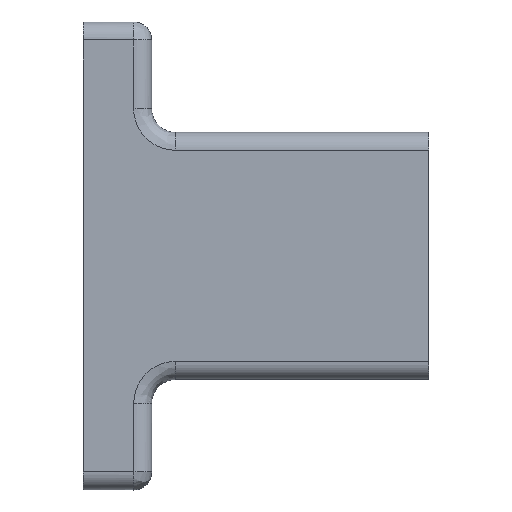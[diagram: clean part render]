
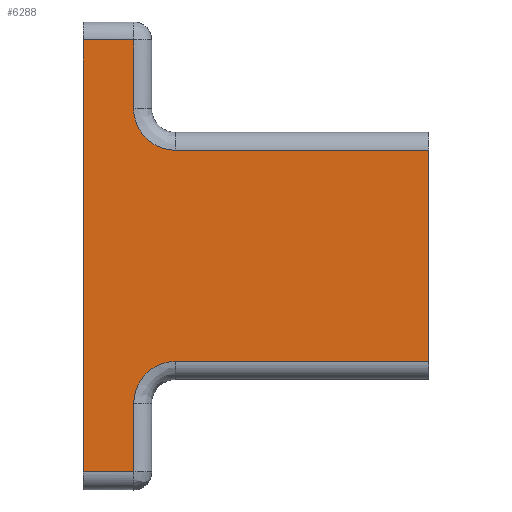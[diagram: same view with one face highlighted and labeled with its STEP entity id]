
A CAD part, top view. The second image highlights one B-rep face of the part: STEP entity #6288.
In plain terms, the highlighted free-form (B-spline) face has degree [1, 1] with [2, 2] control points.
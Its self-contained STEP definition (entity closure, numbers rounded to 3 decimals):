
#1602=CARTESIAN_POINT('',(28.8,9.558,11.));
#1603=VERTEX_POINT('',#1602);
#1622=CARTESIAN_POINT('',(28.8,-8.042,11.));
#1623=VERTEX_POINT('',#1622);
#1624=CARTESIAN_POINT('',(28.8,9.558,11.));
#1625=CARTESIAN_POINT('',(28.8,6.038,11.));
#1626=CARTESIAN_POINT('',(28.8,2.518,11.));
#1627=CARTESIAN_POINT('',(28.8,-1.002,11.));
#1628=CARTESIAN_POINT('',(28.8,-4.522,11.));
#1629=CARTESIAN_POINT('',(28.8,-8.042,11.));
#1630=B_SPLINE_CURVE_WITH_KNOTS('',5,(#1624,#1625,#1626,#1627,#1628,#1629),.UNSPECIFIED.,.F.,.U.,(6,6),(0.,17.6),.UNSPECIFIED.);
#1631=EDGE_CURVE('',#1603,#1623,#1630,.T.);
#3405=CARTESIAN_POINT('',(0.,-17.242,11.));
#3406=VERTEX_POINT('',#3405);
#3425=CARTESIAN_POINT('',(0.,18.758,11.));
#3426=VERTEX_POINT('',#3425);
#3427=CARTESIAN_POINT('',(0.,-17.242,11.));
#3428=CARTESIAN_POINT('',(0.,-10.042,11.));
#3429=CARTESIAN_POINT('',(0.,-2.842,11.));
#3430=CARTESIAN_POINT('',(0.,4.358,11.));
#3431=CARTESIAN_POINT('',(0.,11.558,11.));
#3432=CARTESIAN_POINT('',(0.,18.758,11.));
#3433=B_SPLINE_CURVE_WITH_KNOTS('',5,(#3427,#3428,#3429,#3430,#3431,#3432),.UNSPECIFIED.,.F.,.U.,(6,6),(0.,36.),.UNSPECIFIED.);
#3434=EDGE_CURVE('',#3406,#3426,#3433,.T.);
#4938=CARTESIAN_POINT('',(4.2,18.758,11.));
#4939=VERTEX_POINT('',#4938);
#5356=CARTESIAN_POINT('',(4.2,13.058,11.));
#5357=VERTEX_POINT('',#5356);
#5386=CARTESIAN_POINT('',(4.2,13.058,11.));
#5387=CARTESIAN_POINT('',(4.2,14.198,11.));
#5388=CARTESIAN_POINT('',(4.2,15.338,11.));
#5389=CARTESIAN_POINT('',(4.2,16.478,11.));
#5390=CARTESIAN_POINT('',(4.2,17.618,11.));
#5391=CARTESIAN_POINT('',(4.2,18.758,11.));
#5392=B_SPLINE_CURVE_WITH_KNOTS('',5,(#5386,#5387,#5388,#5389,#5390,#5391),.UNSPECIFIED.,.F.,.U.,(6,6),(0.,5.7),.UNSPECIFIED.);
#5393=EDGE_CURVE('',#5357,#4939,#5392,.T.);
#5410=CARTESIAN_POINT('',(4.2,18.758,11.));
#5411=CARTESIAN_POINT('',(3.36,18.758,11.));
#5412=CARTESIAN_POINT('',(2.52,18.758,11.));
#5413=CARTESIAN_POINT('',(1.68,18.758,11.));
#5414=CARTESIAN_POINT('',(0.84,18.758,11.));
#5415=CARTESIAN_POINT('',(0.,18.758,11.));
#5416=B_SPLINE_CURVE_WITH_KNOTS('',5,(#5410,#5411,#5412,#5413,#5414,#5415),.UNSPECIFIED.,.F.,.U.,(6,6),(0.,4.2),.UNSPECIFIED.);
#5417=EDGE_CURVE('',#4939,#3426,#5416,.T.);
#5470=CARTESIAN_POINT('',(7.7,9.558,11.));
#5471=VERTEX_POINT('',#5470);
#5509=CARTESIAN_POINT('',(7.7,9.558,11.));
#5510=CARTESIAN_POINT('',(7.425,9.558,11.));
#5511=CARTESIAN_POINT('',(7.15,9.585,11.));
#5512=CARTESIAN_POINT('',(6.879,9.639,11.));
#5513=CARTESIAN_POINT('',(6.35,9.8,11.));
#5514=CARTESIAN_POINT('',(5.863,10.06,11.));
#5515=CARTESIAN_POINT('',(5.633,10.214,11.));
#5516=CARTESIAN_POINT('',(5.206,10.564,11.));
#5517=CARTESIAN_POINT('',(4.855,10.991,11.));
#5518=CARTESIAN_POINT('',(4.702,11.221,11.));
#5519=CARTESIAN_POINT('',(4.441,11.708,11.));
#5520=CARTESIAN_POINT('',(4.281,12.237,11.));
#5521=CARTESIAN_POINT('',(4.227,12.508,11.));
#5522=CARTESIAN_POINT('',(4.2,12.783,11.));
#5523=CARTESIAN_POINT('',(4.2,13.058,11.));
#5524=B_SPLINE_CURVE_WITH_KNOTS('',5,(#5509,#5510,#5511,#5512,#5513,#5514,#5515,#5516,#5517,#5518,#5519,#5520,#5521,#5522,#5523),.UNSPECIFIED.,.F.,.U.,(6,3,3,3,6),(0.,0.393,0.785,1.178,1.571),.UNSPECIFIED.);
#5525=EDGE_CURVE('',#5471,#5357,#5524,.T.);
#5552=CARTESIAN_POINT('',(28.8,9.558,11.));
#5553=CARTESIAN_POINT('',(24.58,9.558,11.));
#5554=CARTESIAN_POINT('',(20.36,9.558,11.));
#5555=CARTESIAN_POINT('',(16.14,9.558,11.));
#5556=CARTESIAN_POINT('',(11.92,9.558,11.));
#5557=CARTESIAN_POINT('',(7.7,9.558,11.));
#5558=B_SPLINE_CURVE_WITH_KNOTS('',5,(#5552,#5553,#5554,#5555,#5556,#5557),.UNSPECIFIED.,.F.,.U.,(6,6),(0.,21.1),.UNSPECIFIED.);
#5559=EDGE_CURVE('',#1603,#5471,#5558,.T.);
#5669=CARTESIAN_POINT('',(4.2,-17.242,11.));
#5670=VERTEX_POINT('',#5669);
#5944=CARTESIAN_POINT('',(0.,-17.242,11.));
#5945=CARTESIAN_POINT('',(0.84,-17.242,11.));
#5946=CARTESIAN_POINT('',(1.68,-17.242,11.));
#5947=CARTESIAN_POINT('',(2.52,-17.242,11.));
#5948=CARTESIAN_POINT('',(3.36,-17.242,11.));
#5949=CARTESIAN_POINT('',(4.2,-17.242,11.));
#5950=B_SPLINE_CURVE_WITH_KNOTS('',5,(#5944,#5945,#5946,#5947,#5948,#5949),.UNSPECIFIED.,.F.,.U.,(6,6),(0.,4.2),.UNSPECIFIED.);
#5951=EDGE_CURVE('',#3406,#5670,#5950,.T.);
#5967=CARTESIAN_POINT('',(4.2,-11.542,11.));
#5968=VERTEX_POINT('',#5967);
#5989=CARTESIAN_POINT('',(4.2,-17.242,11.));
#5990=CARTESIAN_POINT('',(4.2,-16.102,11.));
#5991=CARTESIAN_POINT('',(4.2,-14.962,11.));
#5992=CARTESIAN_POINT('',(4.2,-13.822,11.));
#5993=CARTESIAN_POINT('',(4.2,-12.682,11.));
#5994=CARTESIAN_POINT('',(4.2,-11.542,11.));
#5995=B_SPLINE_CURVE_WITH_KNOTS('',5,(#5989,#5990,#5991,#5992,#5993,#5994),.UNSPECIFIED.,.F.,.U.,(6,6),(0.,5.7),.UNSPECIFIED.);
#5996=EDGE_CURVE('',#5670,#5968,#5995,.T.);
#6126=CARTESIAN_POINT('',(7.7,-8.042,11.));
#6127=VERTEX_POINT('',#6126);
#6148=CARTESIAN_POINT('',(4.2,-11.542,11.));
#6149=CARTESIAN_POINT('',(4.2,-11.267,11.));
#6150=CARTESIAN_POINT('',(4.227,-10.992,11.));
#6151=CARTESIAN_POINT('',(4.281,-10.721,11.));
#6152=CARTESIAN_POINT('',(4.441,-10.192,11.));
#6153=CARTESIAN_POINT('',(4.702,-9.705,11.));
#6154=CARTESIAN_POINT('',(4.855,-9.475,11.));
#6155=CARTESIAN_POINT('',(5.206,-9.048,11.));
#6156=CARTESIAN_POINT('',(5.633,-8.697,11.));
#6157=CARTESIAN_POINT('',(5.863,-8.544,11.));
#6158=CARTESIAN_POINT('',(6.35,-8.283,11.));
#6159=CARTESIAN_POINT('',(6.879,-8.123,11.));
#6160=CARTESIAN_POINT('',(7.15,-8.069,11.));
#6161=CARTESIAN_POINT('',(7.425,-8.042,11.));
#6162=CARTESIAN_POINT('',(7.7,-8.042,11.));
#6163=B_SPLINE_CURVE_WITH_KNOTS('',5,(#6148,#6149,#6150,#6151,#6152,#6153,#6154,#6155,#6156,#6157,#6158,#6159,#6160,#6161,#6162),.UNSPECIFIED.,.F.,.U.,(6,3,3,3,6),(0.,0.393,0.785,1.178,1.571),.UNSPECIFIED.);
#6164=EDGE_CURVE('',#5968,#6127,#6163,.T.);
#6226=CARTESIAN_POINT('',(7.7,-8.042,11.));
#6227=CARTESIAN_POINT('',(11.92,-8.042,11.));
#6228=CARTESIAN_POINT('',(16.14,-8.042,11.));
#6229=CARTESIAN_POINT('',(20.36,-8.042,11.));
#6230=CARTESIAN_POINT('',(24.58,-8.042,11.));
#6231=CARTESIAN_POINT('',(28.8,-8.042,11.));
#6232=B_SPLINE_CURVE_WITH_KNOTS('',5,(#6226,#6227,#6228,#6229,#6230,#6231),.UNSPECIFIED.,.F.,.U.,(6,6),(0.,21.1),.UNSPECIFIED.);
#6233=EDGE_CURVE('',#6127,#1623,#6232,.T.);
#6271=CARTESIAN_POINT('',(0.,18.758,11.));
#6272=CARTESIAN_POINT('',(0.,-17.242,11.));
#6273=CARTESIAN_POINT('',(28.8,18.758,11.));
#6274=CARTESIAN_POINT('',(28.8,-17.242,11.));
#6275=B_SPLINE_SURFACE_WITH_KNOTS('',1,1,((#6271,#6272),(#6273,#6274)),.PLANE_SURF.,.F.,.F.,.U.,(2,2),(2,2),(0.,1.),(0.,1.25),.UNSPECIFIED.);
#6276=ORIENTED_EDGE('',*,*,#1631,.T.);
#6277=ORIENTED_EDGE('',*,*,#6233,.F.);
#6278=ORIENTED_EDGE('',*,*,#6164,.F.);
#6279=ORIENTED_EDGE('',*,*,#5996,.F.);
#6280=ORIENTED_EDGE('',*,*,#5951,.F.);
#6281=ORIENTED_EDGE('',*,*,#3434,.T.);
#6282=ORIENTED_EDGE('',*,*,#5417,.F.);
#6283=ORIENTED_EDGE('',*,*,#5393,.F.);
#6284=ORIENTED_EDGE('',*,*,#5525,.F.);
#6285=ORIENTED_EDGE('',*,*,#5559,.F.);
#6286=EDGE_LOOP('',(#6276,#6277,#6278,#6279,#6280,#6281,#6282,#6283,#6284,#6285));
#6287=FACE_OUTER_BOUND('',#6286,.F.);
#6288=ADVANCED_FACE('',(#6287),#6275,.F.);
